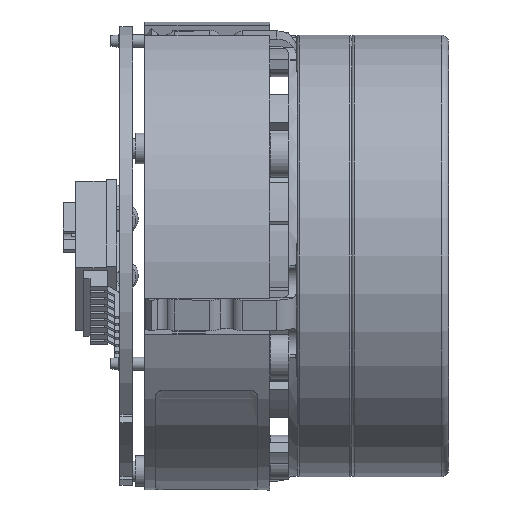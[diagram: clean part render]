
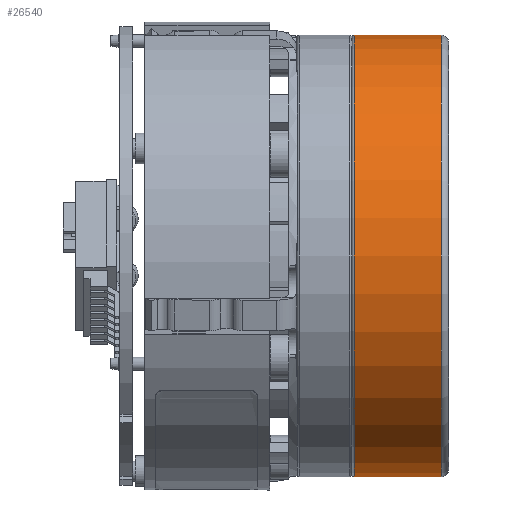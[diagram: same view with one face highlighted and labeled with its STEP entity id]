
A CAD part, front view. The second image highlights one B-rep face of the part: STEP entity #26540.
In plain terms, the highlighted cylindrical face has radius 27.4 mm (diameter 54.8 mm), a full revolution.
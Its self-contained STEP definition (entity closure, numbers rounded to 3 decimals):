
#914 = VERTEX_POINT ( 'NONE', #10105 ) ;
#999 = EDGE_CURVE ( 'NONE', #914, #914, #31985, .T. ) ;
#2212 = EDGE_CURVE ( 'NONE', #8228, #8228, #21268, .T. ) ;
#3562 = EDGE_LOOP ( 'NONE', ( #35070 ) ) ;
#4700 = DIRECTION ( 'NONE',  ( -1., 0., 0. ) ) ;
#6986 = FACE_OUTER_BOUND ( 'NONE', #16091, .T. ) ;
#8228 = VERTEX_POINT ( 'NONE', #16318 ) ;
#10105 = CARTESIAN_POINT ( 'NONE',  ( 11.1, 0., -27.4 ) ) ;
#10641 = DIRECTION ( 'NONE',  ( 0., 0., -1. ) ) ;
#11074 = AXIS2_PLACEMENT_3D ( 'NONE', #31225, #20140, #20000 ) ;
#13243 = CYLINDRICAL_SURFACE ( 'NONE', #31775, 27.4 ) ;
#13614 = CARTESIAN_POINT ( 'NONE',  ( 11.1, 0., 0. ) ) ;
#13677 = DIRECTION ( 'NONE',  ( -1., 0., 0. ) ) ;
#14216 = FACE_OUTER_BOUND ( 'NONE', #3562, .T. ) ;
#16091 = EDGE_LOOP ( 'NONE', ( #30973 ) ) ;
#16318 = CARTESIAN_POINT ( 'NONE',  ( 0.3, 0., -27.4 ) ) ;
#20000 = DIRECTION ( 'NONE',  ( 0., 0., -1. ) ) ;
#20061 = DIRECTION ( 'NONE',  ( 0., 0., 1. ) ) ;
#20140 = DIRECTION ( 'NONE',  ( 1., 0., 0. ) ) ;
#21268 = CIRCLE ( 'NONE', #11074, 27.4 ) ;
#26540 = ADVANCED_FACE ( 'NONE', ( #6986, #14216 ), #13243, .T. ) ;
#30262 = AXIS2_PLACEMENT_3D ( 'NONE', #13614, #4700, #10641 ) ;
#30973 = ORIENTED_EDGE ( 'NONE', *, *, #2212, .T. ) ;
#31225 = CARTESIAN_POINT ( 'NONE',  ( 0.3, 0., 0. ) ) ;
#31775 = AXIS2_PLACEMENT_3D ( 'NONE', #32435, #13677, #20061 ) ;
#31985 = CIRCLE ( 'NONE', #30262, 27.4 ) ;
#32435 = CARTESIAN_POINT ( 'NONE',  ( 12., 0., 0. ) ) ;
#35070 = ORIENTED_EDGE ( 'NONE', *, *, #999, .T. ) ;
